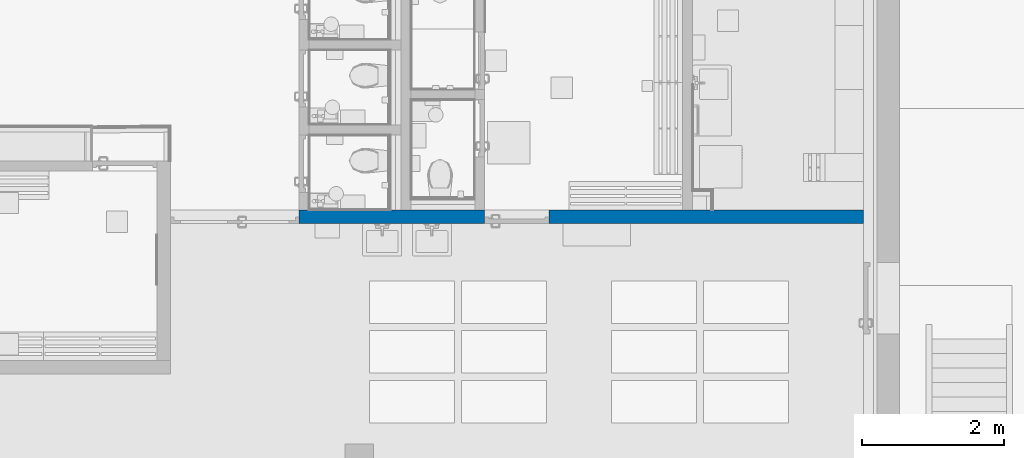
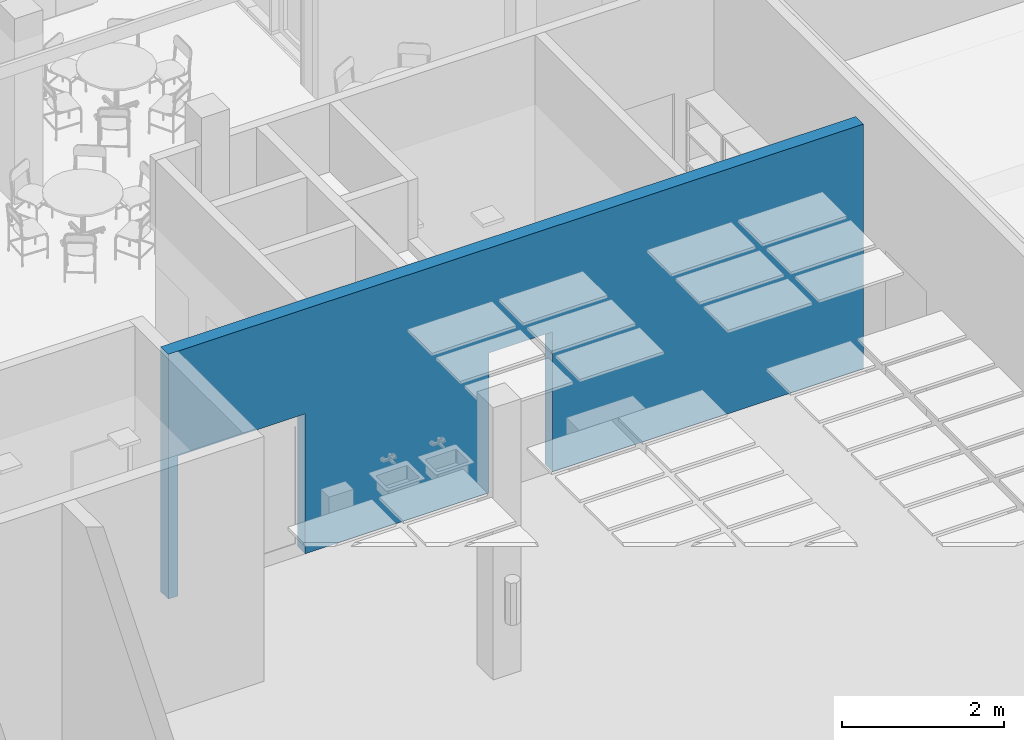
# One storey, part 129 of 301: 1 wall, 2 openings.
"""IFC2X3 building model written with IfcOpenShell, lengths in millimetres."""

from ifc_helpers import new_model, entity, si_unit, converted_unit, derived_unit, money_unit, direction, frame, origin_with_axes, place, context, subcontext, project, spatial, faceted_brep, material, type_object, element, save


model = new_model("IFC2X3")

# Units and contexts
model_context = context("Model", 3, precision=0.01, world=origin_with_axes(), true_north=direction((0.0, 1.0)))
body_context = subcontext(model_context, "Body", "Model", "MODEL_VIEW")
ifc_project = project(units=[si_unit("LENGTHUNIT", "METRE", prefix="MILLI"), si_unit("AREAUNIT", "SQUARE_METRE"), si_unit("VOLUMEUNIT", "CUBIC_METRE"), converted_unit("PLANEANGLEUNIT", "DEGREE", entity("IfcPlaneAngleMeasure", 0.0174532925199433), si_unit("PLANEANGLEUNIT", "RADIAN"), dimensions=[0, 0, 0, 0, 0, 0, 0]), money_unit("EUR"), converted_unit("TIMEUNIT", "Year", entity("IfcTimeMeasure", 31557600.0), si_unit("TIMEUNIT", "SECOND"), dimensions=[0, 0, 1, 0, 0, 0, 0]), si_unit("MASSUNIT", "GRAM", prefix="KILO"), si_unit("THERMODYNAMICTEMPERATUREUNIT", "DEGREE_CELSIUS"), si_unit("LUMINOUSINTENSITYUNIT", "LUMEN"), si_unit("ENERGYUNIT", "JOULE", prefix="MEGA"), derived_unit("THERMALCONDUCTANCEUNIT", [(si_unit("POWERUNIT", "WATT"), 1), (si_unit("LENGTHUNIT", "METRE"), -1), (si_unit("THERMODYNAMICTEMPERATUREUNIT", "KELVIN"), -1)]), derived_unit("SPECIFICHEATCAPACITYUNIT", [(si_unit("ENERGYUNIT", "JOULE"), 1), (si_unit("MASSUNIT", "GRAM", prefix="KILO"), -1), (si_unit("THERMODYNAMICTEMPERATUREUNIT", "KELVIN"), -1)]), derived_unit("MASSDENSITYUNIT", [(si_unit("MASSUNIT", "GRAM", prefix="KILO"), 1), (si_unit("VOLUMEUNIT", "CUBIC_METRE"), -1)])], contexts=[model_context])

# Site, building, storey
site_placement = place(None, frame((0.0, 0.0, 8650.0), z_axis=(0.0, 0.0, 1.0), x_axis=(1.0, 0.0, 0.0)))
site = spatial("IfcSite", under=ifc_project, at=site_placement, Name="43301:001:0844", CompositionType="ELEMENT")
building_placement = place(site_placement, origin_with_axes())
building = spatial("IfcBuilding", under=site, at=building_placement, Name="Kuressaare Ametikooli tuulikute mehaanikute õppekorpus", CompositionType="ELEMENT")
storey_placement = place(building_placement, origin_with_axes())
storey = spatial("IfcBuildingStorey", under=building, at=storey_placement, Name="1.korrus", CompositionType="ELEMENT", Elevation=0.0)

# Wall, openings
ifc_material = material(Name="Betoonplokk")
wall_type = type_object("IfcWallType", Name="SS-1.1 190", PredefinedType="NOTDEFINED")
wall_placement = place(storey_placement, frame((133024.9464416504, 20074.46984143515, 0.0), z_axis=(0.0, 0.0, 1.0), x_axis=(-1.0, 0.0, 0.0)))
wall = element("IfcWall", 1, at=wall_placement, inside=storey, type_object=wall_type, material=ifc_material, Name="Sisesein", context=body_context, shape_type="Brep", body=[
    faceted_brep([(9769.685515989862, 0.0, 2110.0), (9769.685515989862, 0.0, 0.0), (9909.685515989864, 0.0, 0.0), (9909.685515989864, 0.0, 3690.0), (-4.16889633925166e-07, 0.0, 3690.0), (0.0, 0.0, 0.0), (4429.68540104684, 0.0, 0.0), (4429.68540104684, 0.0, 2110.0), (5339.685401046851, 0.0, 2110.0), (5339.685401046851, 0.0, 0.0), (7959.685515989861, 0.0, 0.0), (7959.685515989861, 0.0, 2110.0), (9769.685515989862, 190.0000000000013, 2110.0), (9769.685515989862, 189.9999999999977, 0.0), (9909.685515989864, 189.9999999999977, 0.0), (9909.685515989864, 190.0000000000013, 3690.0), (-3.898890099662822e-07, 190.0000000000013, 3690.0), (0.0, 190.0000000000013, 0.0), (4429.68540104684, 190.0000000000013, 0.0), (4429.68540104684, 190.0000000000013, 2110.0), (5339.685401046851, 190.0000000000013, 2110.0), (5339.685401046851, 189.9999999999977, 0.0), (7959.685515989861, 189.9999999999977, 0.0), (7959.685515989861, 190.0000000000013, 2110.0)], [[[0, 1, 2, 3, 4, 5, 6, 7, 8, 9, 10, 11]], [[1, 0, 12, 13]], [[1, 13, 14, 2]], [[3, 2, 14, 15]], [[4, 3, 15, 16]], [[16, 17, 5, 4]], [[6, 5, 17, 18]], [[6, 18, 19, 7]], [[7, 19, 20, 8]], [[8, 20, 21, 9]], [[22, 10, 9, 21]], [[11, 10, 22, 23]], [[0, 11, 23, 12]], [[23, 22, 21, 20, 19, 18, 17, 16, 15, 14, 13, 12]]]),
])
opening_1_placement = place(wall_placement, frame((4884.685401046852, 0.0, 0.0), z_axis=(0.0, 0.0, 1.0), x_axis=(1.0, 0.0, 0.0)))
element("IfcOpeningElement", 2, at=opening_1_placement, cuts=wall, Name="TU9,EI30,dB", context=body_context, shape_type="Brep", body=[
    faceted_brep([(-455.0000000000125, -1.000000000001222, 2110.0), (-455.0000000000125, -1.000000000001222, 0.0), (454.9999999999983, -1.000000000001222, 0.0), (454.9999999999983, -1.000000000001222, 2110.0), (-455.0000000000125, 191.0000000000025, 2110.0), (-455.0000000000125, 191.0000000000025, 0.0), (454.9999999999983, 191.0000000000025, 0.0), (454.9999999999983, 191.0000000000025, 2110.0)], [[[0, 1, 2, 3]], [[4, 5, 1, 0]], [[5, 6, 2, 1]], [[6, 7, 3, 2]], [[7, 4, 0, 3]], [[6, 5, 4, 7]]]),
])
opening_2_placement = place(wall_placement, frame((8864.685515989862, 0.0, 0.0), z_axis=(0.0, 0.0, 1.0), x_axis=(1.0, 0.0, 0.0)))
element("IfcOpeningElement", 3, at=opening_2_placement, cuts=wall, Name="TKU9+9,EI30,dB", context=body_context, shape_type="Brep", body=[
    faceted_brep([(-905.0000000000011, -1.000000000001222, 2110.0), (-905.0000000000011, -1.000000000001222, 0.0), (905.0000000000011, -1.000000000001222, 0.0), (905.0000000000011, -1.000000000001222, 2110.0), (-905.0000000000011, 191.0000000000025, 2110.0), (-905.0000000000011, 191.0000000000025, 0.0), (905.0000000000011, 191.0000000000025, 0.0), (905.0000000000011, 191.0000000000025, 2110.0)], [[[0, 1, 2, 3]], [[4, 5, 1, 0]], [[5, 6, 2, 1]], [[6, 7, 3, 2]], [[7, 4, 0, 3]], [[6, 5, 4, 7]]]),
])

save(model, "model.ifc")
